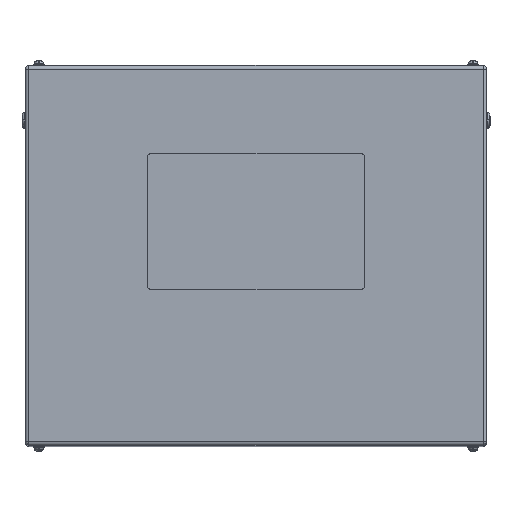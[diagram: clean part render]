
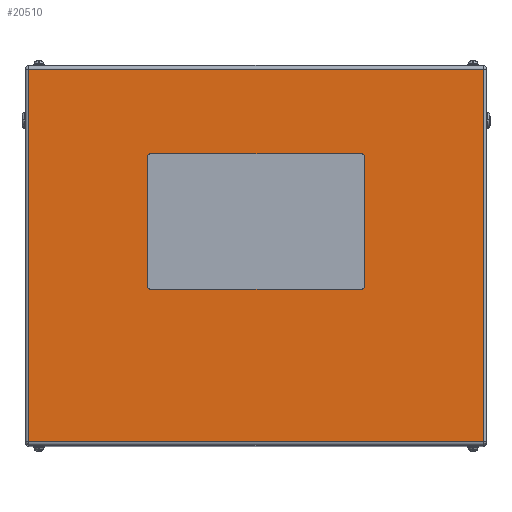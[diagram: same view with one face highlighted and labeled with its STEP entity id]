
A CAD part, top view. The second image highlights one B-rep face of the part: STEP entity #20510.
In plain terms, the highlighted planar face has unit normal (0, 0, 1).
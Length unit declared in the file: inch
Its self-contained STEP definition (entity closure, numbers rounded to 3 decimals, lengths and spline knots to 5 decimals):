
#158 = DIRECTION ( 'NONE',  ( 1., 0., 0. ) ) ;
#323 = VECTOR ( 'NONE', #4817, 39.37008 ) ;
#360 = ORIENTED_EDGE ( 'NONE', *, *, #10961, .T. ) ;
#419 = CARTESIAN_POINT ( 'NONE',  ( 7.75, 7.25, 25.5 ) ) ;
#523 = EDGE_CURVE ( 'NONE', #19259, #2428, #14336, .T. ) ;
#727 = CARTESIAN_POINT ( 'NONE',  ( -8., 7.25, 25.5 ) ) ;
#754 = CARTESIAN_POINT ( 'NONE',  ( -7.75, 7.5, 25.5 ) ) ;
#802 = VERTEX_POINT ( 'NONE', #20242 ) ;
#1424 = CARTESIAN_POINT ( 'NONE',  ( 7.75, -2.25, 25.5 ) ) ;
#2104 = EDGE_LOOP ( 'NONE', ( #7728, #20423, #19068, #360 ) ) ;
#2148 = EDGE_CURVE ( 'NONE', #16659, #7946, #20195, .T. ) ;
#2428 = VERTEX_POINT ( 'NONE', #4443 ) ;
#2667 = CARTESIAN_POINT ( 'NONE',  ( -16.8, 14., 25.5 ) ) ;
#3176 = AXIS2_PLACEMENT_3D ( 'NONE', #3846, #16658, #6872 ) ;
#3341 = CARTESIAN_POINT ( 'NONE',  ( -7.75, 7.25, 25.5 ) ) ;
#3478 = LINE ( 'NONE', #16292, #323 ) ;
#3499 = EDGE_CURVE ( 'NONE', #2428, #802, #7488, .T. ) ;
#3701 = EDGE_CURVE ( 'NONE', #12257, #11532, #13802, .T. ) ;
#3846 = CARTESIAN_POINT ( 'NONE',  ( -7.75, -2.25, 25.5 ) ) ;
#4139 = VERTEX_POINT ( 'NONE', #12925 ) ;
#4389 = AXIS2_PLACEMENT_3D ( 'NONE', #3341, #16360, #13158 ) ;
#4443 = CARTESIAN_POINT ( 'NONE',  ( 7.75, 7.5, 25.5 ) ) ;
#4817 = DIRECTION ( 'NONE',  ( 0., 1., 0. ) ) ;
#4828 = DIRECTION ( 'NONE',  ( -1., 0., 0. ) ) ;
#4977 = LINE ( 'NONE', #14482, #14090 ) ;
#5230 = VECTOR ( 'NONE', #12237, 39.37008 ) ;
#5272 = ORIENTED_EDGE ( 'NONE', *, *, #9247, .F. ) ;
#5554 = CARTESIAN_POINT ( 'NONE',  ( -8., 7.25, 25.5 ) ) ;
#5684 = DIRECTION ( 'NONE',  ( 0., -1., 0. ) ) ;
#5981 = VECTOR ( 'NONE', #158, 39.37008 ) ;
#6214 = ORIENTED_EDGE ( 'NONE', *, *, #3701, .F. ) ;
#6216 = EDGE_CURVE ( 'NONE', #802, #12257, #19800, .T. ) ;
#6736 = LINE ( 'NONE', #12906, #5981 ) ;
#6872 = DIRECTION ( 'NONE',  ( 1., 0., 0. ) ) ;
#7488 = LINE ( 'NONE', #754, #8960 ) ;
#7728 = ORIENTED_EDGE ( 'NONE', *, *, #2148, .T. ) ;
#7946 = VERTEX_POINT ( 'NONE', #13595 ) ;
#8051 = PLANE ( 'NONE',  #14056 ) ;
#8960 = VECTOR ( 'NONE', #20288, 39.37008 ) ;
#9025 = EDGE_CURVE ( 'NONE', #20204, #13704, #6736, .T. ) ;
#9160 = VERTEX_POINT ( 'NONE', #12773 ) ;
#9247 = EDGE_CURVE ( 'NONE', #11013, #19259, #3478, .T. ) ;
#9573 = CARTESIAN_POINT ( 'NONE',  ( 8., 7.25, 25.5 ) ) ;
#9630 = DIRECTION ( 'NONE',  ( 1., 0., 0. ) ) ;
#10622 = LINE ( 'NONE', #15453, #14511 ) ;
#10638 = EDGE_CURVE ( 'NONE', #7946, #9160, #4977, .T. ) ;
#10914 = VECTOR ( 'NONE', #5684, 39.37008 ) ;
#10961 = EDGE_CURVE ( 'NONE', #4139, #16659, #20152, .T. ) ;
#11013 = VERTEX_POINT ( 'NONE', #14213 ) ;
#11220 = FACE_BOUND ( 'NONE', #12619, .T. ) ;
#11327 = DIRECTION ( 'NONE',  ( 1., 0., 0. ) ) ;
#11532 = VERTEX_POINT ( 'NONE', #17240 ) ;
#11843 = ORIENTED_EDGE ( 'NONE', *, *, #13550, .F. ) ;
#11968 = EDGE_CURVE ( 'NONE', #11532, #20204, #20309, .T. ) ;
#12232 = DIRECTION ( 'NONE',  ( -1., 0., 0. ) ) ;
#12237 = DIRECTION ( 'NONE',  ( 0., -1., 0. ) ) ;
#12257 = VERTEX_POINT ( 'NONE', #727 ) ;
#12619 = EDGE_LOOP ( 'NONE', ( #19690, #16985, #6214, #16631, #19901, #20539, #5272, #11843 ) ) ;
#12738 = DIRECTION ( 'NONE',  ( 0., 0., 1. ) ) ;
#12773 = CARTESIAN_POINT ( 'NONE',  ( 16.8, -13.734, 25.5 ) ) ;
#12906 = CARTESIAN_POINT ( 'NONE',  ( -7.75, -2.5, 25.5 ) ) ;
#12925 = CARTESIAN_POINT ( 'NONE',  ( 16.8, 13.734, 25.5 ) ) ;
#13158 = DIRECTION ( 'NONE',  ( 1., 0., 0. ) ) ;
#13550 = EDGE_CURVE ( 'NONE', #13704, #11013, #15186, .T. ) ;
#13595 = CARTESIAN_POINT ( 'NONE',  ( -16.8, -13.734, 25.5 ) ) ;
#13704 = VERTEX_POINT ( 'NONE', #20220 ) ;
#13802 = LINE ( 'NONE', #5554, #5230 ) ;
#14056 = AXIS2_PLACEMENT_3D ( 'NONE', #14481, #16350, #14796 ) ;
#14090 = VECTOR ( 'NONE', #9630, 39.37008 ) ;
#14213 = CARTESIAN_POINT ( 'NONE',  ( 8., -2.25, 25.5 ) ) ;
#14336 = CIRCLE ( 'NONE', #16660, 0.25 ) ;
#14481 = CARTESIAN_POINT ( 'NONE',  ( 17., 14., 25.5 ) ) ;
#14482 = CARTESIAN_POINT ( 'NONE',  ( 16.8, -13.734, 25.5 ) ) ;
#14511 = VECTOR ( 'NONE', #17131, 39.37008 ) ;
#14796 = DIRECTION ( 'NONE',  ( -1., 0., 0. ) ) ;
#14903 = CARTESIAN_POINT ( 'NONE',  ( -16.8, 13.734, 25.5 ) ) ;
#15107 = VECTOR ( 'NONE', #12232, 39.37008 ) ;
#15186 = CIRCLE ( 'NONE', #19834, 0.25 ) ;
#15453 = CARTESIAN_POINT ( 'NONE',  ( 16.8, 14., 25.5 ) ) ;
#16240 = DIRECTION ( 'NONE',  ( 0., 0., 1. ) ) ;
#16292 = CARTESIAN_POINT ( 'NONE',  ( 8., 7.25, 25.5 ) ) ;
#16350 = DIRECTION ( 'NONE',  ( 0., 0., -1. ) ) ;
#16360 = DIRECTION ( 'NONE',  ( 0., 0., 1. ) ) ;
#16631 = ORIENTED_EDGE ( 'NONE', *, *, #6216, .F. ) ;
#16658 = DIRECTION ( 'NONE',  ( 0., 0., 1. ) ) ;
#16659 = VERTEX_POINT ( 'NONE', #14903 ) ;
#16660 = AXIS2_PLACEMENT_3D ( 'NONE', #419, #16240, #4828 ) ;
#16985 = ORIENTED_EDGE ( 'NONE', *, *, #11968, .F. ) ;
#17131 = DIRECTION ( 'NONE',  ( 0., 1., 0. ) ) ;
#17240 = CARTESIAN_POINT ( 'NONE',  ( -8., -2.25, 25.5 ) ) ;
#18289 = CARTESIAN_POINT ( 'NONE',  ( 17., 13.734, 25.5 ) ) ;
#18436 = EDGE_CURVE ( 'NONE', #9160, #4139, #10622, .T. ) ;
#18801 = CARTESIAN_POINT ( 'NONE',  ( -7.75, -2.5, 25.5 ) ) ;
#19068 = ORIENTED_EDGE ( 'NONE', *, *, #18436, .T. ) ;
#19259 = VERTEX_POINT ( 'NONE', #9573 ) ;
#19280 = FACE_OUTER_BOUND ( 'NONE', #2104, .T. ) ;
#19690 = ORIENTED_EDGE ( 'NONE', *, *, #9025, .F. ) ;
#19800 = CIRCLE ( 'NONE', #4389, 0.25 ) ;
#19834 = AXIS2_PLACEMENT_3D ( 'NONE', #1424, #12738, #11327 ) ;
#19901 = ORIENTED_EDGE ( 'NONE', *, *, #3499, .F. ) ;
#20152 = LINE ( 'NONE', #18289, #15107 ) ;
#20195 = LINE ( 'NONE', #2667, #10914 ) ;
#20204 = VERTEX_POINT ( 'NONE', #18801 ) ;
#20220 = CARTESIAN_POINT ( 'NONE',  ( 7.75, -2.5, 25.5 ) ) ;
#20242 = CARTESIAN_POINT ( 'NONE',  ( -7.75, 7.5, 25.5 ) ) ;
#20288 = DIRECTION ( 'NONE',  ( -1., 0., 0. ) ) ;
#20309 = CIRCLE ( 'NONE', #3176, 0.25 ) ;
#20423 = ORIENTED_EDGE ( 'NONE', *, *, #10638, .T. ) ;
#20510 = ADVANCED_FACE ( 'NONE', ( #11220, #19280 ), #8051, .F. ) ;
#20539 = ORIENTED_EDGE ( 'NONE', *, *, #523, .F. ) ;
